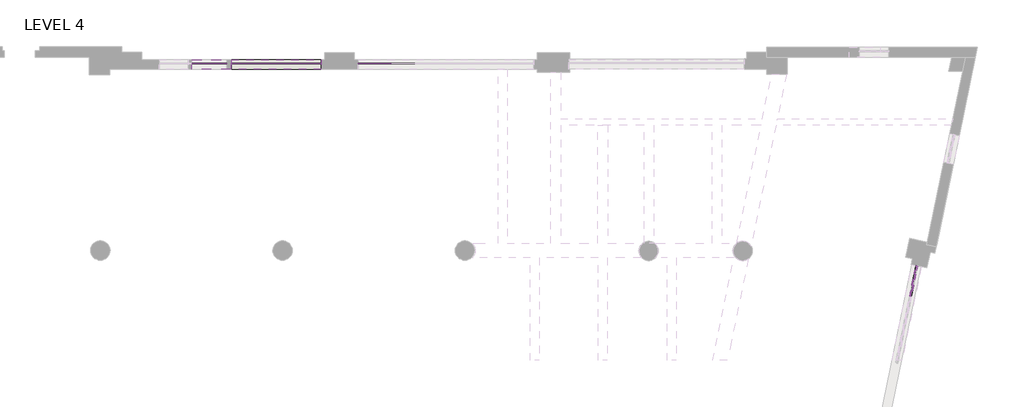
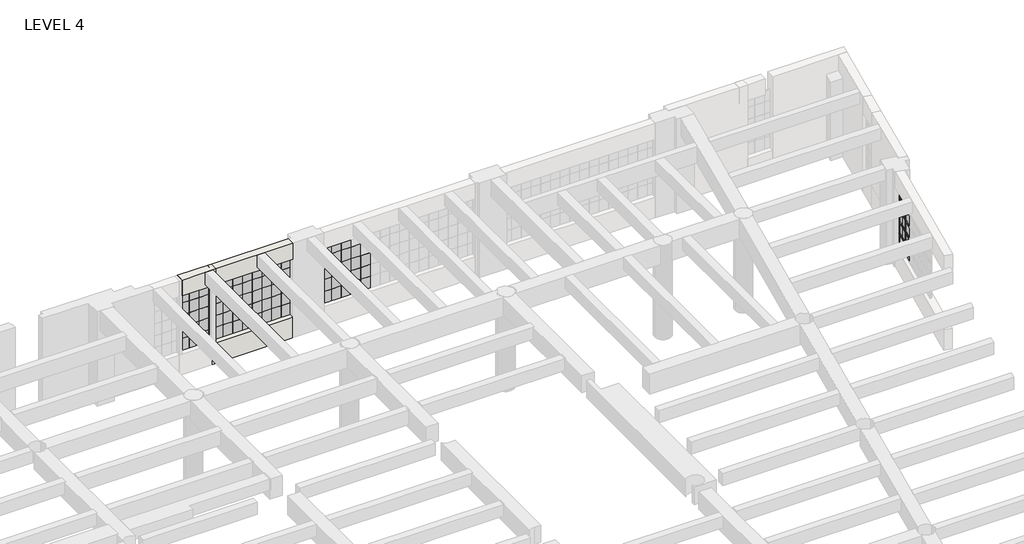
# One storey, part 23 of 26: 95 plates, 27 members, 3 walls.
"""IFC4 building model written with IfcOpenShell, lengths in millimetres."""

from ifc_helpers import new_model, si_unit, origin, place, context, project, spatial, faceted_brep, transform, mapped, element, save
from components import member_038dcf1c, member_0e6c94ff, member_d9fec558, member_3d4b608b, member_6c57b699, member_0f6da5c5, member_387c7860, member_f8d4dbeb, system_panel_glazed_ab35d819, system_panel_glazed_656c6057, system_panel_glazed_f37bcc86, system_panel_glazed_1209dbea, system_panel_glazed_145da6ee, system_panel_glazed_a697b581, system_panel_glazed_418eb6cd, system_panel_glazed_b93c52a1, system_panel_glazed_44deb75c, system_panel_glazed_e9537edc, system_panel_glazed_886d5cdf, system_panel_glazed_ded7d5c6

model = new_model("IFC4")

# Units and contexts
model_context = context("Model", 3, world=origin())
ifc_project = project(units=[si_unit("LENGTHUNIT", "METRE", prefix="MILLI")], contexts=[model_context])

# Site, building, storey
site = spatial("IfcSite", under=ifc_project)
building = spatial("IfcBuilding", under=site)
storey = spatial("IfcBuildingStorey", under=building, Name="LEVEL 4", Elevation=0.0)

# Members
placement = place(None, origin())
member_shape = member_038dcf1c(model_context)
element("IfcMember", 1, ObjectType="Circular Mullion : 1 1/4\" Square", at=placement, inside=storey, context=model_context, shape_type="MappedRepresentation", body=[
    mapped(member_shape, transform((22548.9688588, 110853.8487818, 2171.7), x_axis=(0.2022212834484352, 0.9793398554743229, 0.0), y_axis=(0.9793398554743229, -0.2022212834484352, 0.0), z_axis=(0.0, 0.0, -1.0))),
])
element("IfcMember", 2, ObjectType="Circular Mullion : 1 1/4\" Square", at=placement, inside=storey, context=model_context, shape_type="MappedRepresentation", body=[
    mapped(member_shape, transform((22548.9688588, 110853.8487818, 1714.5), x_axis=(0.2022212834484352, 0.9793398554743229, 0.0), y_axis=(0.9793398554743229, -0.2022212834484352, 0.0), z_axis=(0.0, 0.0, -1.0))),
])
element("IfcMember", 3, ObjectType="Circular Mullion : 1 1/4\" Square", at=placement, inside=storey, context=model_context, shape_type="MappedRepresentation", body=[
    mapped(member_shape, transform((22548.9688588, 110853.8487818, 1257.3), x_axis=(0.2022212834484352, 0.9793398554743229, 0.0), y_axis=(0.9793398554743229, -0.2022212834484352, 0.0), z_axis=(0.0, 0.0, -1.0))),
])
element("IfcMember", 4, ObjectType="Circular Mullion : 1 1/4\" Square", at=placement, inside=storey, context=model_context, shape_type="MappedRepresentation", body=[
    mapped(member_shape, transform((22548.9688588, 110853.8487818, 800.1), x_axis=(0.2022212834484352, 0.9793398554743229, 0.0), y_axis=(0.9793398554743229, -0.2022212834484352, 0.0), z_axis=(0.0, 0.0, -1.0))),
])
member_2_shape = member_0e6c94ff(model_context)
element("IfcMember", 5, ObjectType="Circular Mullion : 1 1/4\" Square", at=placement, inside=storey, context=model_context, shape_type="MappedRepresentation", body=[
    mapped(member_2_shape, transform((22548.9688588, 110853.8487818, 2628.9), x_axis=(0.2022212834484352, 0.9793398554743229, 0.0), y_axis=(0.9793398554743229, -0.2022212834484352, 0.0), z_axis=(0.0, 0.0, -1.0))),
])
member_3_shape = member_d9fec558(model_context)
element("IfcMember", 6, ObjectType="Circular Mullion : 1 1/4\" Square", at=placement, inside=storey, context=model_context, shape_type="MappedRepresentation", body=[
    mapped(member_3_shape, transform((22423.1265541, 110244.40559, 2628.9), x_axis=(0.2022212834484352, 0.9793398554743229, 0.0), y_axis=(0.9793398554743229, -0.2022212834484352, 0.0), z_axis=(0.0, 0.0, -1.0))),
])
member_4_shape = member_3d4b608b(model_context)
element("IfcMember", 7, ObjectType="Circular Mullion : 1 1/4\" Square", at=placement, inside=storey, context=model_context, shape_type="MappedRepresentation", body=[
    mapped(member_4_shape, transform((22423.1265541, 110244.40559, 2171.7), x_axis=(0.2022212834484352, 0.9793398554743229, 0.0), y_axis=(0.9793398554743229, -0.2022212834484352, 0.0), z_axis=(0.0, 0.0, -1.0))),
])
element("IfcMember", 8, ObjectType="Circular Mullion : 1 1/4\" Square", at=placement, inside=storey, context=model_context, shape_type="MappedRepresentation", body=[
    mapped(member_4_shape, transform((22423.1265541, 110244.40559, 1714.5), x_axis=(0.2022212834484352, 0.9793398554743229, 0.0), y_axis=(0.9793398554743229, -0.2022212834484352, 0.0), z_axis=(0.0, 0.0, -1.0))),
])
element("IfcMember", 9, ObjectType="Circular Mullion : 1 1/4\" Square", at=placement, inside=storey, context=model_context, shape_type="MappedRepresentation", body=[
    mapped(member_4_shape, transform((22423.1265541, 110244.40559, 1257.3), x_axis=(0.2022212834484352, 0.9793398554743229, 0.0), y_axis=(0.9793398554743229, -0.2022212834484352, 0.0), z_axis=(0.0, 0.0, -1.0))),
])
element("IfcMember", 10, ObjectType="Circular Mullion : 1 1/4\" Square", at=placement, inside=storey, context=model_context, shape_type="MappedRepresentation", body=[
    mapped(member_4_shape, transform((22423.1265541, 110244.40559, 800.1), x_axis=(0.2022212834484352, 0.9793398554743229, 0.0), y_axis=(0.9793398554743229, -0.2022212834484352, 0.0), z_axis=(0.0, 0.0, -1.0))),
])
member_5_shape = member_6c57b699(model_context)
element("IfcMember", 11, ObjectType="Circular Mullion : 1 1/4\" Square", at=placement, inside=storey, context=model_context, shape_type="MappedRepresentation", body=[
    mapped(member_5_shape, transform((22495.0364425, 110592.6588426, 2628.9), x_axis=(0.0, 0.0, 1.0), y_axis=(0.9793398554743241, -0.20222128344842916, 0.0), z_axis=(0.20222128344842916, 0.9793398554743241, 0.0))),
])
element("IfcMember", 12, ObjectType="Circular Mullion : 1 1/4\" Square", at=placement, inside=storey, context=model_context, shape_type="MappedRepresentation", body=[
    mapped(member_5_shape, transform((22495.0364425, 110592.6588426, 2171.7), x_axis=(0.0, 0.0, 1.0), y_axis=(0.9793398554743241, -0.20222128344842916, 0.0), z_axis=(0.20222128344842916, 0.9793398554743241, 0.0))),
])
element("IfcMember", 13, ObjectType="Circular Mullion : 1 1/4\" Square", at=placement, inside=storey, context=model_context, shape_type="MappedRepresentation", body=[
    mapped(member_5_shape, transform((22495.0364425, 110592.6588426, 1714.5), x_axis=(0.0, 0.0, 1.0), y_axis=(0.9793398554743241, -0.20222128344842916, 0.0), z_axis=(0.20222128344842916, 0.9793398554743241, 0.0))),
])
element("IfcMember", 14, ObjectType="Circular Mullion : 1 1/4\" Square", at=placement, inside=storey, context=model_context, shape_type="MappedRepresentation", body=[
    mapped(member_5_shape, transform((22495.0364425, 110592.6588426, 1257.3), x_axis=(0.0, 0.0, 1.0), y_axis=(0.9793398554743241, -0.20222128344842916, 0.0), z_axis=(0.20222128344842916, 0.9793398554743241, 0.0))),
])
member_6_shape = member_0f6da5c5(model_context)
element("IfcMember", 15, ObjectType="Circular Mullion : 1 1/4\" Square", at=placement, inside=storey, context=model_context, shape_type="MappedRepresentation", body=[
    mapped(member_6_shape, transform((22495.0364425, 110592.6588426, 3060.7), x_axis=(0.0, 0.0, 1.0), y_axis=(0.9793398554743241, -0.20222128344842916, 0.0), z_axis=(0.20222128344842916, 0.9793398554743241, 0.0))),
])
element("IfcMember", 16, ObjectType="Circular Mullion : 1 1/4\" Square", at=placement, inside=storey, context=model_context, shape_type="MappedRepresentation", body=[
    mapped(member_6_shape, transform((22420.5583438, 110231.9679739, 3060.7), x_axis=(0.0, 0.0, 1.0), y_axis=(0.9793398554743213, -0.20222128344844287, 0.0), z_axis=(0.20222128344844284, 0.9793398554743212, 0.0))),
])
element("IfcMember", 17, ObjectType="Circular Mullion : 1 1/4\" Square", at=placement, inside=storey, context=model_context, shape_type="MappedRepresentation", body=[
    mapped(member_6_shape, transform((22425.6947644, 110256.8432062, 800.1), x_axis=(0.0, 0.0, -1.0), y_axis=(0.9793398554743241, -0.20222128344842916, 0.0), z_axis=(-0.20222128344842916, -0.9793398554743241, 0.0))),
])
element("IfcMember", 18, ObjectType="Circular Mullion : 1 1/4\" Square", at=placement, inside=storey, context=model_context, shape_type="MappedRepresentation", body=[
    mapped(member_5_shape, transform((22420.5583438, 110231.9679739, 2628.9), x_axis=(0.0, 0.0, 1.0), y_axis=(0.9793398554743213, -0.20222128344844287, 0.0), z_axis=(0.20222128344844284, 0.9793398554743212, 0.0))),
])
element("IfcMember", 19, ObjectType="Circular Mullion : 1 1/4\" Square", at=placement, inside=storey, context=model_context, shape_type="MappedRepresentation", body=[
    mapped(member_5_shape, transform((22420.5583438, 110231.9679739, 2171.7), x_axis=(0.0, 0.0, 1.0), y_axis=(0.9793398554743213, -0.20222128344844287, 0.0), z_axis=(0.20222128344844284, 0.9793398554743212, 0.0))),
])
element("IfcMember", 20, ObjectType="Circular Mullion : 1 1/4\" Square", at=placement, inside=storey, context=model_context, shape_type="MappedRepresentation", body=[
    mapped(member_5_shape, transform((22420.5583438, 110231.9679739, 1714.5), x_axis=(0.0, 0.0, 1.0), y_axis=(0.9793398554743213, -0.20222128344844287, 0.0), z_axis=(0.20222128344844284, 0.9793398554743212, 0.0))),
])
element("IfcMember", 21, ObjectType="Circular Mullion : 1 1/4\" Square", at=placement, inside=storey, context=model_context, shape_type="MappedRepresentation", body=[
    mapped(member_5_shape, transform((22420.5583438, 110231.9679739, 1257.3), x_axis=(0.0, 0.0, 1.0), y_axis=(0.9793398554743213, -0.20222128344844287, 0.0), z_axis=(0.20222128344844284, 0.9793398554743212, 0.0))),
])
member_7_shape = member_387c7860(model_context)
element("IfcMember", 22, ObjectType="Circular Mullion : 1 1/4\" Square", at=placement, inside=storey, context=model_context, shape_type="MappedRepresentation", body=[
    mapped(member_7_shape, transform((22543.8324382, 110828.9735495, 3060.7), x_axis=(0.0, 0.0, 1.0), y_axis=(0.9793398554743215, -0.20222128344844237, 0.0), z_axis=(0.20222128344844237, 0.9793398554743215, 0.0))),
])
element("IfcMember", 23, ObjectType="Circular Mullion : 1 1/4\" Square", at=placement, inside=storey, context=model_context, shape_type="MappedRepresentation", body=[
    mapped(member_7_shape, transform((22495.0364425, 110592.6588426, 800.1), x_axis=(0.0, 0.0, -1.0), y_axis=(0.9793398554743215, -0.20222128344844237, 0.0), z_axis=(-0.20222128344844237, -0.9793398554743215, 0.0))),
])
member_8_shape = member_f8d4dbeb(model_context)
element("IfcMember", 24, ObjectType="Circular Mullion : 1 1/4\" Square", at=placement, inside=storey, context=model_context, shape_type="MappedRepresentation", body=[
    mapped(member_8_shape, transform((22543.8324382, 110828.9735495, 2628.9), x_axis=(0.0, 0.0, 1.0), y_axis=(0.9793398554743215, -0.20222128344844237, 0.0), z_axis=(0.20222128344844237, 0.9793398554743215, 0.0))),
])
element("IfcMember", 25, ObjectType="Circular Mullion : 1 1/4\" Square", at=placement, inside=storey, context=model_context, shape_type="MappedRepresentation", body=[
    mapped(member_8_shape, transform((22543.8324382, 110828.9735495, 2171.7), x_axis=(0.0, 0.0, 1.0), y_axis=(0.9793398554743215, -0.20222128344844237, 0.0), z_axis=(0.20222128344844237, 0.9793398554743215, 0.0))),
])
element("IfcMember", 26, ObjectType="Circular Mullion : 1 1/4\" Square", at=placement, inside=storey, context=model_context, shape_type="MappedRepresentation", body=[
    mapped(member_8_shape, transform((22543.8324382, 110828.9735495, 1714.5), x_axis=(0.0, 0.0, 1.0), y_axis=(0.9793398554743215, -0.20222128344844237, 0.0), z_axis=(0.20222128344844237, 0.9793398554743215, 0.0))),
])
element("IfcMember", 27, ObjectType="Circular Mullion : 1 1/4\" Square", at=placement, inside=storey, context=model_context, shape_type="MappedRepresentation", body=[
    mapped(member_8_shape, transform((22543.8324382, 110828.9735495, 1257.3), x_axis=(0.0, 0.0, 1.0), y_axis=(0.9793398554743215, -0.20222128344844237, 0.0), z_axis=(0.20222128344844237, 0.9793398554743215, 0.0))),
])

# Plates
system_panel_glazed_shape = system_panel_glazed_ab35d819(model_context)
element("IfcPlate", 28, ObjectType="System Panel : Glazed", at=placement, inside=storey, context=model_context, shape_type="MappedRepresentation", body=[
    mapped(system_panel_glazed_shape, transform((22387.1716099, 110070.2789637, 800.1), x_axis=(0.2022212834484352, 0.9793398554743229, 0.0), y_axis=(-0.9793398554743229, 0.2022212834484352, 0.0), z_axis=(0.0, 0.0, 1.0))),
])
element("IfcPlate", 29, ObjectType="System Panel : Glazed", at=placement, inside=storey, context=model_context, shape_type="MappedRepresentation", body=[
    mapped(system_panel_glazed_shape, transform((22387.1716099, 110070.2789637, 1257.3), x_axis=(0.2022212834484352, 0.9793398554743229, 0.0), y_axis=(-0.9793398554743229, 0.2022212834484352, 0.0), z_axis=(0.0, 0.0, 1.0))),
])
element("IfcPlate", 30, ObjectType="System Panel : Glazed", at=placement, inside=storey, context=model_context, shape_type="MappedRepresentation", body=[
    mapped(system_panel_glazed_shape, transform((22459.0814983, 110418.5322163, 1257.3), x_axis=(0.2022212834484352, 0.9793398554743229, 0.0), y_axis=(-0.9793398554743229, 0.2022212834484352, 0.0), z_axis=(0.0, 0.0, 1.0))),
])
element("IfcPlate", 31, ObjectType="System Panel : Glazed", at=placement, inside=storey, context=model_context, shape_type="MappedRepresentation", body=[
    mapped(system_panel_glazed_shape, transform((22387.1716099, 110070.2789637, 1714.5), x_axis=(0.2022212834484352, 0.9793398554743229, 0.0), y_axis=(-0.9793398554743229, 0.2022212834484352, 0.0), z_axis=(0.0, 0.0, 1.0))),
])
element("IfcPlate", 32, ObjectType="System Panel : Glazed", at=placement, inside=storey, context=model_context, shape_type="MappedRepresentation", body=[
    mapped(system_panel_glazed_shape, transform((22459.0814983, 110418.5322163, 1714.5), x_axis=(0.2022212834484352, 0.9793398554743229, 0.0), y_axis=(-0.9793398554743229, 0.2022212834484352, 0.0), z_axis=(0.0, 0.0, 1.0))),
])
element("IfcPlate", 33, ObjectType="System Panel : Glazed", at=placement, inside=storey, context=model_context, shape_type="MappedRepresentation", body=[
    mapped(system_panel_glazed_shape, transform((22387.1716099, 110070.2789637, 2171.7), x_axis=(0.2022212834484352, 0.9793398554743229, 0.0), y_axis=(-0.9793398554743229, 0.2022212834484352, 0.0), z_axis=(0.0, 0.0, 1.0))),
])
element("IfcPlate", 34, ObjectType="System Panel : Glazed", at=placement, inside=storey, context=model_context, shape_type="MappedRepresentation", body=[
    mapped(system_panel_glazed_shape, transform((22459.0814983, 110418.5322163, 2171.7), x_axis=(0.2022212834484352, 0.9793398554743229, 0.0), y_axis=(-0.9793398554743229, 0.2022212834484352, 0.0), z_axis=(0.0, 0.0, 1.0))),
])
system_panel_glazed_2_shape = system_panel_glazed_656c6057(model_context)
element("IfcPlate", 35, ObjectType="System Panel : Glazed", at=placement, inside=storey, context=model_context, shape_type="MappedRepresentation", body=[
    mapped(system_panel_glazed_2_shape, transform((22.2039529, 117159.1044271, 800.1), x_axis=(1.0, 0.0, 0.0), y_axis=(0.0, 1.0, 0.0), z_axis=(0.0, 0.0, 1.0))),
])
element("IfcPlate", 36, ObjectType="System Panel : Glazed", at=placement, inside=storey, context=model_context, shape_type="MappedRepresentation", body=[
    mapped(system_panel_glazed_2_shape, transform((1616.053953, 117161.3224053, 800.1), x_axis=(1.0, 0.0, 0.0), y_axis=(0.0, 1.0, 0.0), z_axis=(0.0, 0.0, 1.0))),
])
element("IfcPlate", 37, ObjectType="System Panel : Glazed", at=placement, inside=storey, context=model_context, shape_type="MappedRepresentation", body=[
    mapped(system_panel_glazed_2_shape, transform((5233.5027264, 117161.3480443, 800.1), x_axis=(1.0, 0.0, 0.0), y_axis=(0.0, 1.0, 0.0), z_axis=(0.0, 0.0, 1.0))),
])
element("IfcPlate", 38, ObjectType="System Panel : Glazed", at=placement, inside=storey, context=model_context, shape_type="MappedRepresentation", body=[
    mapped(system_panel_glazed_2_shape, transform((5589.1027265, 117161.3480443, 800.1), x_axis=(1.0, 0.0, 0.0), y_axis=(0.0, 1.0, 0.0), z_axis=(0.0, 0.0, 1.0))),
])
element("IfcPlate", 39, ObjectType="System Panel : Glazed", at=placement, inside=storey, context=model_context, shape_type="MappedRepresentation", body=[
    mapped(system_panel_glazed_2_shape, transform((5944.7027265, 117161.3480443, 800.1), x_axis=(1.0, 0.0, 0.0), y_axis=(0.0, 1.0, 0.0), z_axis=(0.0, 0.0, 1.0))),
])
element("IfcPlate", 40, ObjectType="System Panel : Glazed", at=placement, inside=storey, context=model_context, shape_type="MappedRepresentation", body=[
    mapped(system_panel_glazed_2_shape, transform((6300.3027265, 117161.3480443, 800.1), x_axis=(1.0, 0.0, 0.0), y_axis=(0.0, 1.0, 0.0), z_axis=(0.0, 0.0, 1.0))),
])
element("IfcPlate", 41, ObjectType="System Panel : Glazed", at=placement, inside=storey, context=model_context, shape_type="MappedRepresentation", body=[
    mapped(system_panel_glazed_2_shape, transform((377.803953, 117159.1044271, 800.1), x_axis=(1.0, 0.0, 0.0), y_axis=(0.0, 1.0, 0.0), z_axis=(0.0, 0.0, 1.0))),
])
element("IfcPlate", 42, ObjectType="System Panel : Glazed", at=placement, inside=storey, context=model_context, shape_type="MappedRepresentation", body=[
    mapped(system_panel_glazed_2_shape, transform((733.403953, 117159.1044271, 800.1), x_axis=(1.0, 0.0, 0.0), y_axis=(0.0, 1.0, 0.0), z_axis=(0.0, 0.0, 1.0))),
])
element("IfcPlate", 43, ObjectType="System Panel : Glazed", at=placement, inside=storey, context=model_context, shape_type="MappedRepresentation", body=[
    mapped(system_panel_glazed_2_shape, transform((22.2039529, 117159.1044271, 1257.3), x_axis=(1.0, 0.0, 0.0), y_axis=(0.0, 1.0, 0.0), z_axis=(0.0, 0.0, 1.0))),
])
element("IfcPlate", 44, ObjectType="System Panel : Glazed", at=placement, inside=storey, context=model_context, shape_type="MappedRepresentation", body=[
    mapped(system_panel_glazed_2_shape, transform((377.803953, 117159.1044271, 1257.3), x_axis=(1.0, 0.0, 0.0), y_axis=(0.0, 1.0, 0.0), z_axis=(0.0, 0.0, 1.0))),
])
element("IfcPlate", 45, ObjectType="System Panel : Glazed", at=placement, inside=storey, context=model_context, shape_type="MappedRepresentation", body=[
    mapped(system_panel_glazed_2_shape, transform((733.403953, 117159.1044271, 1257.3), x_axis=(1.0, 0.0, 0.0), y_axis=(0.0, 1.0, 0.0), z_axis=(0.0, 0.0, 1.0))),
])
element("IfcPlate", 46, ObjectType="System Panel : Glazed", at=placement, inside=storey, context=model_context, shape_type="MappedRepresentation", body=[
    mapped(system_panel_glazed_2_shape, transform((22.2039529, 117159.1044271, 1714.5), x_axis=(1.0, 0.0, 0.0), y_axis=(0.0, 1.0, 0.0), z_axis=(0.0, 0.0, 1.0))),
])
element("IfcPlate", 47, ObjectType="System Panel : Glazed", at=placement, inside=storey, context=model_context, shape_type="MappedRepresentation", body=[
    mapped(system_panel_glazed_2_shape, transform((377.803953, 117159.1044271, 1714.5), x_axis=(1.0, 0.0, 0.0), y_axis=(0.0, 1.0, 0.0), z_axis=(0.0, 0.0, 1.0))),
])
element("IfcPlate", 48, ObjectType="System Panel : Glazed", at=placement, inside=storey, context=model_context, shape_type="MappedRepresentation", body=[
    mapped(system_panel_glazed_2_shape, transform((733.403953, 117159.1044271, 1714.5), x_axis=(1.0, 0.0, 0.0), y_axis=(0.0, 1.0, 0.0), z_axis=(0.0, 0.0, 1.0))),
])
element("IfcPlate", 49, ObjectType="System Panel : Glazed", at=placement, inside=storey, context=model_context, shape_type="MappedRepresentation", body=[
    mapped(system_panel_glazed_2_shape, transform((22.2039529, 117159.1044271, 2171.7), x_axis=(1.0, 0.0, 0.0), y_axis=(0.0, 1.0, 0.0), z_axis=(0.0, 0.0, 1.0))),
])
element("IfcPlate", 50, ObjectType="System Panel : Glazed", at=placement, inside=storey, context=model_context, shape_type="MappedRepresentation", body=[
    mapped(system_panel_glazed_2_shape, transform((377.803953, 117159.1044271, 2171.7), x_axis=(1.0, 0.0, 0.0), y_axis=(0.0, 1.0, 0.0), z_axis=(0.0, 0.0, 1.0))),
])
element("IfcPlate", 51, ObjectType="System Panel : Glazed", at=placement, inside=storey, context=model_context, shape_type="MappedRepresentation", body=[
    mapped(system_panel_glazed_2_shape, transform((733.403953, 117159.1044271, 2171.7), x_axis=(1.0, 0.0, 0.0), y_axis=(0.0, 1.0, 0.0), z_axis=(0.0, 0.0, 1.0))),
])
element("IfcPlate", 52, ObjectType="System Panel : Glazed", at=placement, inside=storey, context=model_context, shape_type="MappedRepresentation", body=[
    mapped(system_panel_glazed_2_shape, transform((1971.653953, 117161.3224053, 800.1), x_axis=(1.0, 0.0, 0.0), y_axis=(0.0, 1.0, 0.0), z_axis=(0.0, 0.0, 1.0))),
])
element("IfcPlate", 53, ObjectType="System Panel : Glazed", at=placement, inside=storey, context=model_context, shape_type="MappedRepresentation", body=[
    mapped(system_panel_glazed_2_shape, transform((2327.253953, 117161.3224053, 800.1), x_axis=(1.0, 0.0, 0.0), y_axis=(0.0, 1.0, 0.0), z_axis=(0.0, 0.0, 1.0))),
])
element("IfcPlate", 54, ObjectType="System Panel : Glazed", at=placement, inside=storey, context=model_context, shape_type="MappedRepresentation", body=[
    mapped(system_panel_glazed_2_shape, transform((2682.853953, 117161.3224053, 800.1), x_axis=(1.0, 0.0, 0.0), y_axis=(0.0, 1.0, 0.0), z_axis=(0.0, 0.0, 1.0))),
])
element("IfcPlate", 55, ObjectType="System Panel : Glazed", at=placement, inside=storey, context=model_context, shape_type="MappedRepresentation", body=[
    mapped(system_panel_glazed_2_shape, transform((3038.453953, 117161.3224053, 800.1), x_axis=(1.0, 0.0, 0.0), y_axis=(0.0, 1.0, 0.0), z_axis=(0.0, 0.0, 1.0))),
])
element("IfcPlate", 56, ObjectType="System Panel : Glazed", at=placement, inside=storey, context=model_context, shape_type="MappedRepresentation", body=[
    mapped(system_panel_glazed_2_shape, transform((3394.053953, 117161.3224053, 800.1), x_axis=(1.0, 0.0, 0.0), y_axis=(0.0, 1.0, 0.0), z_axis=(0.0, 0.0, 1.0))),
])
element("IfcPlate", 57, ObjectType="System Panel : Glazed", at=placement, inside=storey, context=model_context, shape_type="MappedRepresentation", body=[
    mapped(system_panel_glazed_2_shape, transform((1616.053953, 117161.3224053, 1257.3), x_axis=(1.0, 0.0, 0.0), y_axis=(0.0, 1.0, 0.0), z_axis=(0.0, 0.0, 1.0))),
])
element("IfcPlate", 58, ObjectType="System Panel : Glazed", at=placement, inside=storey, context=model_context, shape_type="MappedRepresentation", body=[
    mapped(system_panel_glazed_2_shape, transform((1971.653953, 117161.3224053, 1257.3), x_axis=(1.0, 0.0, 0.0), y_axis=(0.0, 1.0, 0.0), z_axis=(0.0, 0.0, 1.0))),
])
element("IfcPlate", 59, ObjectType="System Panel : Glazed", at=placement, inside=storey, context=model_context, shape_type="MappedRepresentation", body=[
    mapped(system_panel_glazed_2_shape, transform((2327.253953, 117161.3224053, 1257.3), x_axis=(1.0, 0.0, 0.0), y_axis=(0.0, 1.0, 0.0), z_axis=(0.0, 0.0, 1.0))),
])
element("IfcPlate", 60, ObjectType="System Panel : Glazed", at=placement, inside=storey, context=model_context, shape_type="MappedRepresentation", body=[
    mapped(system_panel_glazed_2_shape, transform((2682.853953, 117161.3224053, 1257.3), x_axis=(1.0, 0.0, 0.0), y_axis=(0.0, 1.0, 0.0), z_axis=(0.0, 0.0, 1.0))),
])
element("IfcPlate", 61, ObjectType="System Panel : Glazed", at=placement, inside=storey, context=model_context, shape_type="MappedRepresentation", body=[
    mapped(system_panel_glazed_2_shape, transform((3038.453953, 117161.3224053, 1257.3), x_axis=(1.0, 0.0, 0.0), y_axis=(0.0, 1.0, 0.0), z_axis=(0.0, 0.0, 1.0))),
])
element("IfcPlate", 62, ObjectType="System Panel : Glazed", at=placement, inside=storey, context=model_context, shape_type="MappedRepresentation", body=[
    mapped(system_panel_glazed_2_shape, transform((3394.053953, 117161.3224053, 1257.3), x_axis=(1.0, 0.0, 0.0), y_axis=(0.0, 1.0, 0.0), z_axis=(0.0, 0.0, 1.0))),
])
element("IfcPlate", 63, ObjectType="System Panel : Glazed", at=placement, inside=storey, context=model_context, shape_type="MappedRepresentation", body=[
    mapped(system_panel_glazed_2_shape, transform((1616.053953, 117161.3224053, 1714.5), x_axis=(1.0, 0.0, 0.0), y_axis=(0.0, 1.0, 0.0), z_axis=(0.0, 0.0, 1.0))),
])
element("IfcPlate", 64, ObjectType="System Panel : Glazed", at=placement, inside=storey, context=model_context, shape_type="MappedRepresentation", body=[
    mapped(system_panel_glazed_2_shape, transform((1971.653953, 117161.3224053, 1714.5), x_axis=(1.0, 0.0, 0.0), y_axis=(0.0, 1.0, 0.0), z_axis=(0.0, 0.0, 1.0))),
])
element("IfcPlate", 65, ObjectType="System Panel : Glazed", at=placement, inside=storey, context=model_context, shape_type="MappedRepresentation", body=[
    mapped(system_panel_glazed_2_shape, transform((2327.253953, 117161.3224053, 1714.5), x_axis=(1.0, 0.0, 0.0), y_axis=(0.0, 1.0, 0.0), z_axis=(0.0, 0.0, 1.0))),
])
element("IfcPlate", 66, ObjectType="System Panel : Glazed", at=placement, inside=storey, context=model_context, shape_type="MappedRepresentation", body=[
    mapped(system_panel_glazed_2_shape, transform((2682.853953, 117161.3224053, 1714.5), x_axis=(1.0, 0.0, 0.0), y_axis=(0.0, 1.0, 0.0), z_axis=(0.0, 0.0, 1.0))),
])
element("IfcPlate", 67, ObjectType="System Panel : Glazed", at=placement, inside=storey, context=model_context, shape_type="MappedRepresentation", body=[
    mapped(system_panel_glazed_2_shape, transform((3038.453953, 117161.3224053, 1714.5), x_axis=(1.0, 0.0, 0.0), y_axis=(0.0, 1.0, 0.0), z_axis=(0.0, 0.0, 1.0))),
])
element("IfcPlate", 68, ObjectType="System Panel : Glazed", at=placement, inside=storey, context=model_context, shape_type="MappedRepresentation", body=[
    mapped(system_panel_glazed_2_shape, transform((3394.053953, 117161.3224053, 1714.5), x_axis=(1.0, 0.0, 0.0), y_axis=(0.0, 1.0, 0.0), z_axis=(0.0, 0.0, 1.0))),
])
element("IfcPlate", 69, ObjectType="System Panel : Glazed", at=placement, inside=storey, context=model_context, shape_type="MappedRepresentation", body=[
    mapped(system_panel_glazed_2_shape, transform((1616.053953, 117161.3224053, 2171.7), x_axis=(1.0, 0.0, 0.0), y_axis=(0.0, 1.0, 0.0), z_axis=(0.0, 0.0, 1.0))),
])
element("IfcPlate", 70, ObjectType="System Panel : Glazed", at=placement, inside=storey, context=model_context, shape_type="MappedRepresentation", body=[
    mapped(system_panel_glazed_2_shape, transform((1971.653953, 117161.3224053, 2171.7), x_axis=(1.0, 0.0, 0.0), y_axis=(0.0, 1.0, 0.0), z_axis=(0.0, 0.0, 1.0))),
])
element("IfcPlate", 71, ObjectType="System Panel : Glazed", at=placement, inside=storey, context=model_context, shape_type="MappedRepresentation", body=[
    mapped(system_panel_glazed_2_shape, transform((2327.253953, 117161.3224053, 2171.7), x_axis=(1.0, 0.0, 0.0), y_axis=(0.0, 1.0, 0.0), z_axis=(0.0, 0.0, 1.0))),
])
element("IfcPlate", 72, ObjectType="System Panel : Glazed", at=placement, inside=storey, context=model_context, shape_type="MappedRepresentation", body=[
    mapped(system_panel_glazed_2_shape, transform((2682.853953, 117161.3224053, 2171.7), x_axis=(1.0, 0.0, 0.0), y_axis=(0.0, 1.0, 0.0), z_axis=(0.0, 0.0, 1.0))),
])
element("IfcPlate", 73, ObjectType="System Panel : Glazed", at=placement, inside=storey, context=model_context, shape_type="MappedRepresentation", body=[
    mapped(system_panel_glazed_2_shape, transform((3038.453953, 117161.3224053, 2171.7), x_axis=(1.0, 0.0, 0.0), y_axis=(0.0, 1.0, 0.0), z_axis=(0.0, 0.0, 1.0))),
])
element("IfcPlate", 74, ObjectType="System Panel : Glazed", at=placement, inside=storey, context=model_context, shape_type="MappedRepresentation", body=[
    mapped(system_panel_glazed_2_shape, transform((3394.053953, 117161.3224053, 2171.7), x_axis=(1.0, 0.0, 0.0), y_axis=(0.0, 1.0, 0.0), z_axis=(0.0, 0.0, 1.0))),
])
element("IfcPlate", 75, ObjectType="System Panel : Glazed", at=placement, inside=storey, context=model_context, shape_type="MappedRepresentation", body=[
    mapped(system_panel_glazed_2_shape, transform((6655.9027265, 117161.3480443, 800.1), x_axis=(1.0, 0.0, 0.0), y_axis=(0.0, 1.0, 0.0), z_axis=(0.0, 0.0, 1.0))),
])
element("IfcPlate", 76, ObjectType="System Panel : Glazed", at=placement, inside=storey, context=model_context, shape_type="MappedRepresentation", body=[
    mapped(system_panel_glazed_2_shape, transform((5233.5027264, 117161.3480443, 1257.3), x_axis=(1.0, 0.0, 0.0), y_axis=(0.0, 1.0, 0.0), z_axis=(0.0, 0.0, 1.0))),
])
element("IfcPlate", 77, ObjectType="System Panel : Glazed", at=placement, inside=storey, context=model_context, shape_type="MappedRepresentation", body=[
    mapped(system_panel_glazed_2_shape, transform((5589.1027265, 117161.3480443, 1257.3), x_axis=(1.0, 0.0, 0.0), y_axis=(0.0, 1.0, 0.0), z_axis=(0.0, 0.0, 1.0))),
])
element("IfcPlate", 78, ObjectType="System Panel : Glazed", at=placement, inside=storey, context=model_context, shape_type="MappedRepresentation", body=[
    mapped(system_panel_glazed_2_shape, transform((5944.7027265, 117161.3480443, 1257.3), x_axis=(1.0, 0.0, 0.0), y_axis=(0.0, 1.0, 0.0), z_axis=(0.0, 0.0, 1.0))),
])
element("IfcPlate", 79, ObjectType="System Panel : Glazed", at=placement, inside=storey, context=model_context, shape_type="MappedRepresentation", body=[
    mapped(system_panel_glazed_2_shape, transform((6300.3027265, 117161.3480443, 1257.3), x_axis=(1.0, 0.0, 0.0), y_axis=(0.0, 1.0, 0.0), z_axis=(0.0, 0.0, 1.0))),
])
element("IfcPlate", 80, ObjectType="System Panel : Glazed", at=placement, inside=storey, context=model_context, shape_type="MappedRepresentation", body=[
    mapped(system_panel_glazed_2_shape, transform((6655.9027265, 117161.3480443, 1257.3), x_axis=(1.0, 0.0, 0.0), y_axis=(0.0, 1.0, 0.0), z_axis=(0.0, 0.0, 1.0))),
])
element("IfcPlate", 81, ObjectType="System Panel : Glazed", at=placement, inside=storey, context=model_context, shape_type="MappedRepresentation", body=[
    mapped(system_panel_glazed_2_shape, transform((5233.5027264, 117161.3480443, 1714.5), x_axis=(1.0, 0.0, 0.0), y_axis=(0.0, 1.0, 0.0), z_axis=(0.0, 0.0, 1.0))),
])
element("IfcPlate", 82, ObjectType="System Panel : Glazed", at=placement, inside=storey, context=model_context, shape_type="MappedRepresentation", body=[
    mapped(system_panel_glazed_2_shape, transform((5589.1027265, 117161.3480443, 1714.5), x_axis=(1.0, 0.0, 0.0), y_axis=(0.0, 1.0, 0.0), z_axis=(0.0, 0.0, 1.0))),
])
element("IfcPlate", 83, ObjectType="System Panel : Glazed", at=placement, inside=storey, context=model_context, shape_type="MappedRepresentation", body=[
    mapped(system_panel_glazed_2_shape, transform((5944.7027265, 117161.3480443, 1714.5), x_axis=(1.0, 0.0, 0.0), y_axis=(0.0, 1.0, 0.0), z_axis=(0.0, 0.0, 1.0))),
])
element("IfcPlate", 84, ObjectType="System Panel : Glazed", at=placement, inside=storey, context=model_context, shape_type="MappedRepresentation", body=[
    mapped(system_panel_glazed_2_shape, transform((6300.3027265, 117161.3480443, 1714.5), x_axis=(1.0, 0.0, 0.0), y_axis=(0.0, 1.0, 0.0), z_axis=(0.0, 0.0, 1.0))),
])
element("IfcPlate", 85, ObjectType="System Panel : Glazed", at=placement, inside=storey, context=model_context, shape_type="MappedRepresentation", body=[
    mapped(system_panel_glazed_2_shape, transform((6655.9027265, 117161.3480443, 1714.5), x_axis=(1.0, 0.0, 0.0), y_axis=(0.0, 1.0, 0.0), z_axis=(0.0, 0.0, 1.0))),
])
element("IfcPlate", 86, ObjectType="System Panel : Glazed", at=placement, inside=storey, context=model_context, shape_type="MappedRepresentation", body=[
    mapped(system_panel_glazed_2_shape, transform((5233.5027264, 117161.3480443, 2171.7), x_axis=(1.0, 0.0, 0.0), y_axis=(0.0, 1.0, 0.0), z_axis=(0.0, 0.0, 1.0))),
])
element("IfcPlate", 87, ObjectType="System Panel : Glazed", at=placement, inside=storey, context=model_context, shape_type="MappedRepresentation", body=[
    mapped(system_panel_glazed_2_shape, transform((5589.1027265, 117161.3480443, 2171.7), x_axis=(1.0, 0.0, 0.0), y_axis=(0.0, 1.0, 0.0), z_axis=(0.0, 0.0, 1.0))),
])
element("IfcPlate", 88, ObjectType="System Panel : Glazed", at=placement, inside=storey, context=model_context, shape_type="MappedRepresentation", body=[
    mapped(system_panel_glazed_2_shape, transform((5944.7027265, 117161.3480443, 2171.7), x_axis=(1.0, 0.0, 0.0), y_axis=(0.0, 1.0, 0.0), z_axis=(0.0, 0.0, 1.0))),
])
element("IfcPlate", 89, ObjectType="System Panel : Glazed", at=placement, inside=storey, context=model_context, shape_type="MappedRepresentation", body=[
    mapped(system_panel_glazed_2_shape, transform((6300.3027265, 117161.3480443, 2171.7), x_axis=(1.0, 0.0, 0.0), y_axis=(0.0, 1.0, 0.0), z_axis=(0.0, 0.0, 1.0))),
])
system_panel_glazed_3_shape = system_panel_glazed_f37bcc86(model_context)
element("IfcPlate", 90, ObjectType="System Panel : Glazed", at=placement, inside=storey, context=model_context, shape_type="MappedRepresentation", body=[
    mapped(system_panel_glazed_3_shape, transform((22522.0026507, 110723.2538122, 1257.3), x_axis=(0.2022212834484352, 0.9793398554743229, 0.0), y_axis=(-0.9793398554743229, 0.2022212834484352, 0.0), z_axis=(0.0, 0.0, 1.0))),
])
element("IfcPlate", 91, ObjectType="System Panel : Glazed", at=placement, inside=storey, context=model_context, shape_type="MappedRepresentation", body=[
    mapped(system_panel_glazed_3_shape, transform((22522.0026507, 110723.2538122, 1714.5), x_axis=(0.2022212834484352, 0.9793398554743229, 0.0), y_axis=(-0.9793398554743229, 0.2022212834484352, 0.0), z_axis=(0.0, 0.0, 1.0))),
])
element("IfcPlate", 92, ObjectType="System Panel : Glazed", at=placement, inside=storey, context=model_context, shape_type="MappedRepresentation", body=[
    mapped(system_panel_glazed_3_shape, transform((22522.0026507, 110723.2538122, 2171.7), x_axis=(0.2022212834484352, 0.9793398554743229, 0.0), y_axis=(-0.9793398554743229, 0.2022212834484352, 0.0), z_axis=(0.0, 0.0, 1.0))),
])
system_panel_glazed_4_shape = system_panel_glazed_1209dbea(model_context)
element("IfcPlate", 93, ObjectType="System Panel : Glazed", at=placement, inside=storey, context=model_context, shape_type="MappedRepresentation", body=[
    mapped(system_panel_glazed_4_shape, transform((923.9039529, 117159.1044271, 800.1), x_axis=(1.0, 0.0, 0.0), y_axis=(0.0, 1.0, 0.0), z_axis=(0.0, 0.0, 1.0))),
])
element("IfcPlate", 94, ObjectType="System Panel : Glazed", at=placement, inside=storey, context=model_context, shape_type="MappedRepresentation", body=[
    mapped(system_panel_glazed_4_shape, transform((923.9039529, 117159.1044271, 1257.3), x_axis=(1.0, 0.0, 0.0), y_axis=(0.0, 1.0, 0.0), z_axis=(0.0, 0.0, 1.0))),
])
element("IfcPlate", 95, ObjectType="System Panel : Glazed", at=placement, inside=storey, context=model_context, shape_type="MappedRepresentation", body=[
    mapped(system_panel_glazed_4_shape, transform((923.9039529, 117159.1044271, 1714.5), x_axis=(1.0, 0.0, 0.0), y_axis=(0.0, 1.0, 0.0), z_axis=(0.0, 0.0, 1.0))),
])
element("IfcPlate", 96, ObjectType="System Panel : Glazed", at=placement, inside=storey, context=model_context, shape_type="MappedRepresentation", body=[
    mapped(system_panel_glazed_4_shape, transform((923.9039529, 117159.1044271, 2171.7), x_axis=(1.0, 0.0, 0.0), y_axis=(0.0, 1.0, 0.0), z_axis=(0.0, 0.0, 1.0))),
])
system_panel_glazed_5_shape = system_panel_glazed_145da6ee(model_context)
element("IfcPlate", 97, ObjectType="System Panel : Glazed", at=placement, inside=storey, context=model_context, shape_type="MappedRepresentation", body=[
    mapped(system_panel_glazed_5_shape, transform((3736.8903125, 117161.3224053, 800.1), x_axis=(1.0, 0.0, 0.0), y_axis=(0.0, 1.0, 0.0), z_axis=(0.0, 0.0, 1.0))),
])
element("IfcPlate", 98, ObjectType="System Panel : Glazed", at=placement, inside=storey, context=model_context, shape_type="MappedRepresentation", body=[
    mapped(system_panel_glazed_5_shape, transform((3736.8903125, 117161.3224053, 1257.3), x_axis=(1.0, 0.0, 0.0), y_axis=(0.0, 1.0, 0.0), z_axis=(0.0, 0.0, 1.0))),
])
element("IfcPlate", 99, ObjectType="System Panel : Glazed", at=placement, inside=storey, context=model_context, shape_type="MappedRepresentation", body=[
    mapped(system_panel_glazed_5_shape, transform((3736.8903125, 117161.3224053, 1714.5), x_axis=(1.0, 0.0, 0.0), y_axis=(0.0, 1.0, 0.0), z_axis=(0.0, 0.0, 1.0))),
])
element("IfcPlate", 100, ObjectType="System Panel : Glazed", at=placement, inside=storey, context=model_context, shape_type="MappedRepresentation", body=[
    mapped(system_panel_glazed_5_shape, transform((3736.8903125, 117161.3224053, 2171.7), x_axis=(1.0, 0.0, 0.0), y_axis=(0.0, 1.0, 0.0), z_axis=(0.0, 0.0, 1.0))),
])
system_panel_glazed_6_shape = system_panel_glazed_a697b581(model_context)
element("IfcPlate", 101, ObjectType="System Panel : Glazed", at=placement, inside=storey, context=model_context, shape_type="MappedRepresentation", body=[
    mapped(system_panel_glazed_6_shape, transform((1260.3903125, 117161.3224053, 800.1), x_axis=(1.0, 0.0, 0.0), y_axis=(0.0, 1.0, 0.0), z_axis=(0.0, 0.0, 1.0))),
])
element("IfcPlate", 102, ObjectType="System Panel : Glazed", at=placement, inside=storey, context=model_context, shape_type="MappedRepresentation", body=[
    mapped(system_panel_glazed_6_shape, transform((1260.3903125, 117161.3224053, 1257.3), x_axis=(1.0, 0.0, 0.0), y_axis=(0.0, 1.0, 0.0), z_axis=(0.0, 0.0, 1.0))),
])
element("IfcPlate", 103, ObjectType="System Panel : Glazed", at=placement, inside=storey, context=model_context, shape_type="MappedRepresentation", body=[
    mapped(system_panel_glazed_6_shape, transform((1260.3903125, 117161.3224053, 1714.5), x_axis=(1.0, 0.0, 0.0), y_axis=(0.0, 1.0, 0.0), z_axis=(0.0, 0.0, 1.0))),
])
element("IfcPlate", 104, ObjectType="System Panel : Glazed", at=placement, inside=storey, context=model_context, shape_type="MappedRepresentation", body=[
    mapped(system_panel_glazed_6_shape, transform((1260.3903125, 117161.3224053, 2171.7), x_axis=(1.0, 0.0, 0.0), y_axis=(0.0, 1.0, 0.0), z_axis=(0.0, 0.0, 1.0))),
])
system_panel_glazed_7_shape = system_panel_glazed_418eb6cd(model_context)
element("IfcPlate", 105, ObjectType="System Panel : Glazed", at=placement, inside=storey, context=model_context, shape_type="MappedRepresentation", body=[
    mapped(system_panel_glazed_7_shape, transform((22387.1716099, 110070.2789637, 2628.9), x_axis=(0.2022212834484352, 0.9793398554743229, 0.0), y_axis=(-0.9793398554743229, 0.2022212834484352, 0.0), z_axis=(0.0, 0.0, 1.0))),
])
element("IfcPlate", 106, ObjectType="System Panel : Glazed", at=placement, inside=storey, context=model_context, shape_type="MappedRepresentation", body=[
    mapped(system_panel_glazed_7_shape, transform((22459.0814983, 110418.5322163, 2628.9), x_axis=(0.2022212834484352, 0.9793398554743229, 0.0), y_axis=(-0.9793398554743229, 0.2022212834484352, 0.0), z_axis=(0.0, 0.0, 1.0))),
])
system_panel_glazed_8_shape = system_panel_glazed_b93c52a1(model_context)
element("IfcPlate", 107, ObjectType="System Panel : Glazed", at=placement, inside=storey, context=model_context, shape_type="MappedRepresentation", body=[
    mapped(system_panel_glazed_8_shape, transform((22522.0026507, 110723.2538122, 2628.9), x_axis=(0.2022212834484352, 0.9793398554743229, 0.0), y_axis=(-0.9793398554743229, 0.2022212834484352, 0.0), z_axis=(0.0, 0.0, 1.0))),
])
system_panel_glazed_9_shape = system_panel_glazed_44deb75c(model_context)
element("IfcPlate", 108, ObjectType="System Panel : Glazed", at=placement, inside=storey, context=model_context, shape_type="MappedRepresentation", body=[
    mapped(system_panel_glazed_9_shape, transform((22.2039529, 117159.1044271, 2628.9), x_axis=(1.0, 0.0, 0.0), y_axis=(0.0, 1.0, 0.0), z_axis=(0.0, 0.0, 1.0))),
])
element("IfcPlate", 109, ObjectType="System Panel : Glazed", at=placement, inside=storey, context=model_context, shape_type="MappedRepresentation", body=[
    mapped(system_panel_glazed_9_shape, transform((377.803953, 117159.1044271, 2628.9), x_axis=(1.0, 0.0, 0.0), y_axis=(0.0, 1.0, 0.0), z_axis=(0.0, 0.0, 1.0))),
])
element("IfcPlate", 110, ObjectType="System Panel : Glazed", at=placement, inside=storey, context=model_context, shape_type="MappedRepresentation", body=[
    mapped(system_panel_glazed_9_shape, transform((733.403953, 117159.1044271, 2628.9), x_axis=(1.0, 0.0, 0.0), y_axis=(0.0, 1.0, 0.0), z_axis=(0.0, 0.0, 1.0))),
])
element("IfcPlate", 111, ObjectType="System Panel : Glazed", at=placement, inside=storey, context=model_context, shape_type="MappedRepresentation", body=[
    mapped(system_panel_glazed_9_shape, transform((1616.053953, 117161.3224053, 2628.9), x_axis=(1.0, 0.0, 0.0), y_axis=(0.0, 1.0, 0.0), z_axis=(0.0, 0.0, 1.0))),
])
element("IfcPlate", 112, ObjectType="System Panel : Glazed", at=placement, inside=storey, context=model_context, shape_type="MappedRepresentation", body=[
    mapped(system_panel_glazed_9_shape, transform((1971.653953, 117161.3224053, 2628.9), x_axis=(1.0, 0.0, 0.0), y_axis=(0.0, 1.0, 0.0), z_axis=(0.0, 0.0, 1.0))),
])
element("IfcPlate", 113, ObjectType="System Panel : Glazed", at=placement, inside=storey, context=model_context, shape_type="MappedRepresentation", body=[
    mapped(system_panel_glazed_9_shape, transform((2327.253953, 117161.3224053, 2628.9), x_axis=(1.0, 0.0, 0.0), y_axis=(0.0, 1.0, 0.0), z_axis=(0.0, 0.0, 1.0))),
])
element("IfcPlate", 114, ObjectType="System Panel : Glazed", at=placement, inside=storey, context=model_context, shape_type="MappedRepresentation", body=[
    mapped(system_panel_glazed_9_shape, transform((2682.853953, 117161.3224053, 2628.9), x_axis=(1.0, 0.0, 0.0), y_axis=(0.0, 1.0, 0.0), z_axis=(0.0, 0.0, 1.0))),
])
element("IfcPlate", 115, ObjectType="System Panel : Glazed", at=placement, inside=storey, context=model_context, shape_type="MappedRepresentation", body=[
    mapped(system_panel_glazed_9_shape, transform((3038.453953, 117161.3224053, 2628.9), x_axis=(1.0, 0.0, 0.0), y_axis=(0.0, 1.0, 0.0), z_axis=(0.0, 0.0, 1.0))),
])
element("IfcPlate", 116, ObjectType="System Panel : Glazed", at=placement, inside=storey, context=model_context, shape_type="MappedRepresentation", body=[
    mapped(system_panel_glazed_9_shape, transform((3394.053953, 117161.3224053, 2628.9), x_axis=(1.0, 0.0, 0.0), y_axis=(0.0, 1.0, 0.0), z_axis=(0.0, 0.0, 1.0))),
])
element("IfcPlate", 117, ObjectType="System Panel : Glazed", at=placement, inside=storey, context=model_context, shape_type="MappedRepresentation", body=[
    mapped(system_panel_glazed_9_shape, transform((5233.5027264, 117161.3480443, 2628.9), x_axis=(1.0, 0.0, 0.0), y_axis=(0.0, 1.0, 0.0), z_axis=(0.0, 0.0, 1.0))),
])
element("IfcPlate", 118, ObjectType="System Panel : Glazed", at=placement, inside=storey, context=model_context, shape_type="MappedRepresentation", body=[
    mapped(system_panel_glazed_9_shape, transform((5589.1027265, 117161.3480443, 2628.9), x_axis=(1.0, 0.0, 0.0), y_axis=(0.0, 1.0, 0.0), z_axis=(0.0, 0.0, 1.0))),
])
element("IfcPlate", 119, ObjectType="System Panel : Glazed", at=placement, inside=storey, context=model_context, shape_type="MappedRepresentation", body=[
    mapped(system_panel_glazed_9_shape, transform((5944.7027265, 117161.3480443, 2628.9), x_axis=(1.0, 0.0, 0.0), y_axis=(0.0, 1.0, 0.0), z_axis=(0.0, 0.0, 1.0))),
])
system_panel_glazed_10_shape = system_panel_glazed_e9537edc(model_context)
element("IfcPlate", 120, ObjectType="System Panel : Glazed", at=placement, inside=storey, context=model_context, shape_type="MappedRepresentation", body=[
    mapped(system_panel_glazed_10_shape, transform((1260.3903125, 117161.3224053, 2628.9), x_axis=(1.0, 0.0, 0.0), y_axis=(0.0, 1.0, 0.0), z_axis=(0.0, 0.0, 1.0))),
])
system_panel_glazed_11_shape = system_panel_glazed_886d5cdf(model_context)
element("IfcPlate", 121, ObjectType="System Panel : Glazed", at=placement, inside=storey, context=model_context, shape_type="MappedRepresentation", body=[
    mapped(system_panel_glazed_11_shape, transform((923.9039529, 117159.1044271, 2628.9), x_axis=(1.0, 0.0, 0.0), y_axis=(0.0, 1.0, 0.0), z_axis=(0.0, 0.0, 1.0))),
])
system_panel_glazed_12_shape = system_panel_glazed_ded7d5c6(model_context)
element("IfcPlate", 122, ObjectType="System Panel : Glazed", at=placement, inside=storey, context=model_context, shape_type="MappedRepresentation", body=[
    mapped(system_panel_glazed_12_shape, transform((3736.8903125, 117161.3224053, 2628.9), x_axis=(1.0, 0.0, 0.0), y_axis=(0.0, 1.0, 0.0), z_axis=(0.0, 0.0, 1.0))),
])

# Walls
element("IfcWall", 123, ObjectType="_Generic - 12\"", at=placement, inside=storey, context=model_context, shape_type="Brep", body=[
    faceted_brep([(936.6039527, 117008.9224053, 0.0), (3901.9266719, 117008.9224053, 0.0), (3901.9266719, 117008.9224053, 800.1), (936.6039527, 117008.9224053, 800.1), (936.6039527, 117313.7224053, 0.0), (936.6039527, 117313.7224053, 800.1), (3901.9266719, 117313.7224053, 800.1), (3901.9266719, 117313.7224053, 0.0), (936.6039527, 117311.5044271, 0.0), (936.6039527, 117311.5044271, 800.1)], [[[0, 1, 2, 3]], [[4, 5, 6, 7]], [[1, 0, 8, 4, 7]], [[2, 1, 7, 6]], [[3, 2, 6, 5, 9]], [[0, 3, 9, 5, 4, 8]]]),
])
element("IfcWall", 124, ObjectType="_Generic - 12\"", at=placement, inside=storey, context=model_context, shape_type="Brep", body=[
    faceted_brep([(3901.9266719, 117311.3411553, 3048.0), (1082.5266719, 117311.3411553, 3048.0), (1082.5266719, 117311.3411553, 3657.6), (3901.9266719, 117311.3411553, 3657.6), (3901.9266719, 117006.5411553, 3048.0), (3901.9266719, 117006.5411553, 3657.6), (1082.5266719, 117006.5411553, 3657.6), (1082.5266719, 117006.5411553, 3048.0), (1082.5266719, 117006.7044271, 3048.0), (1082.5266719, 117006.7044271, 3657.6)], [[[0, 1, 2, 3]], [[4, 5, 6, 7]], [[1, 0, 4, 7, 8]], [[2, 1, 8, 7, 6, 9]], [[3, 2, 9, 6, 5]], [[0, 3, 5, 4]]]),
])
element("IfcWall", 125, ObjectType="_Generic - 12\"", at=placement, inside=storey, context=model_context, shape_type="Brep", body=[
    faceted_brep([(1082.5266719, 117311.5044271, 3048.0), (-155.5960473, 117311.5044271, 3048.0), (-155.5960473, 117311.5044271, 3657.6), (1082.5266719, 117311.5044271, 3657.6), (1082.5266719, 117006.7044271, 3048.0), (1082.5266719, 117006.7044271, 3657.6), (-155.5960473, 117006.7044271, 3657.6), (-155.5960473, 117006.7044271, 3048.0), (1082.5266719, 117311.3411553, 3048.0), (1082.5266719, 117311.3411553, 3657.6)], [[[0, 1, 2, 3]], [[4, 5, 6, 7]], [[1, 0, 8, 4, 7]], [[2, 1, 7, 6]], [[3, 2, 6, 5, 9]], [[0, 3, 9, 5, 4, 8]]]),
])

save(model, "model.ifc")
